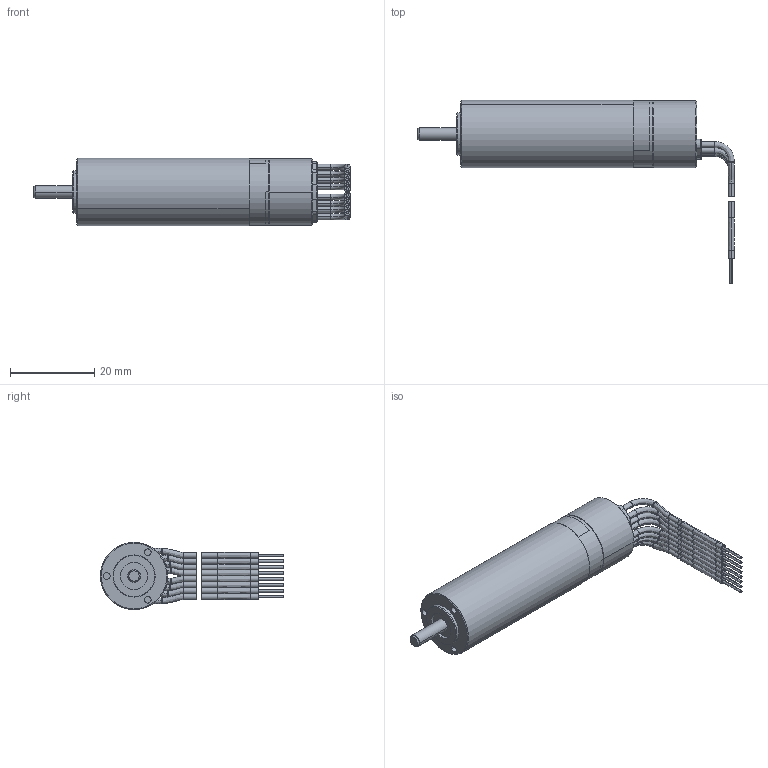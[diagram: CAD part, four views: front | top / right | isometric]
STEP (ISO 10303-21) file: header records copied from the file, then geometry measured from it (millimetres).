
FILE_DESCRIPTION((''),'2;1');
FILE_NAME('399264_EC16_60W_STE_A','2016-10-17T',('mmagpetk'),(''),'CREO PARAMETRIC BY PTC INC, 2016050','CREO PARAMETRIC BY PTC INC, 2016050','');
FILE_SCHEMA(('CONFIG_CONTROL_DESIGN'));
Length unit declared in the file: millimetre
Products named in the file (1): 399264_EC16_60W_STE_A
Bounding box: 75.1 x 43.5 x 16 mm (x, y, z)
Volume: 11716.8 mm3; surface area: 4755.2 mm2
Topology: 9 solids, 9 shells, 290 faces, 620 edges, 362 vertices
Faces by surface type: cylinder 123, plane 69, bspline 57, cone 28, extrusion 9, torus 4
Entity records: 12759 total; most frequent: CARTESIAN_POINT 3686, DIRECTION 1283, ORIENTED_EDGE 1240, PRESENTATION_STYLE_ASSIGNMENT 769, STYLED_ITEM 638, CURVE_STYLE 629, EDGE_CURVE 620, AXIS2_PLACEMENT_3D 526
